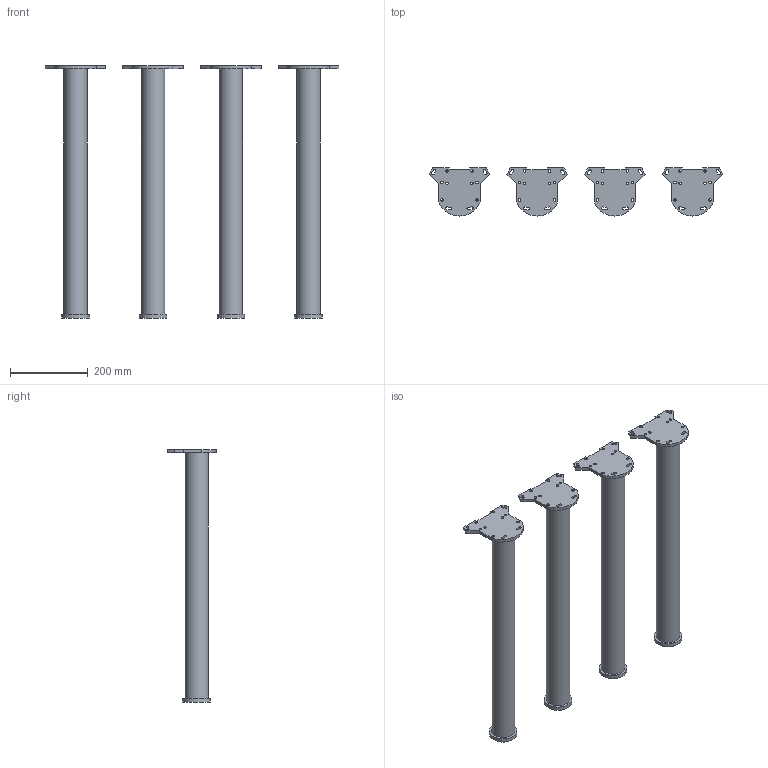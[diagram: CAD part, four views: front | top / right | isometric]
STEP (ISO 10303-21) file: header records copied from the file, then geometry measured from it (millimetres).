
FILE_DESCRIPTION( ( 'STEP AP214' ), '1' );
FILE_NAME( 'D:/Yug/2021/Desk_and_office_organisation/Correction in table leg fixing/QC/70202.stp', '2021-08-10T12:45:13', ( '' ), ( '' ), ' ', 'PARTsolutions', ' ' );
FILE_SCHEMA( ( 'AUTOMOTIVE_DESIGN { 1 0 10303 214 1 1 1 1 }' ) );
Length unit declared in the file: millimetre
Products named in the file (2): 70202; _70202_1
Assembly tree (4 placements, depth 2):
  70202
    _70202_1  x4
Bounding box: 755.69 x 124 x 650 mm (x, y, z)
Volume: 7705332.8 mm3; surface area: 619843.8 mm2
Topology: 4 solids, 4 shells, 168 faces, 456 edges, 304 vertices
Faces by surface type: plane 92, cylinder 76
Full cylindrical faces by diameter (mm): 6.5 x32, 60 x4, 71 x4
Entity records: 1732 total; most frequent: DIRECTION 236, CARTESIAN_POINT 227, ORIENTED_EDGE 208, EDGE_CURVE 104, AXIS2_PLACEMENT_3D 85, EDGE_LOOP 78, VERTEX_POINT 76, LINE 66
